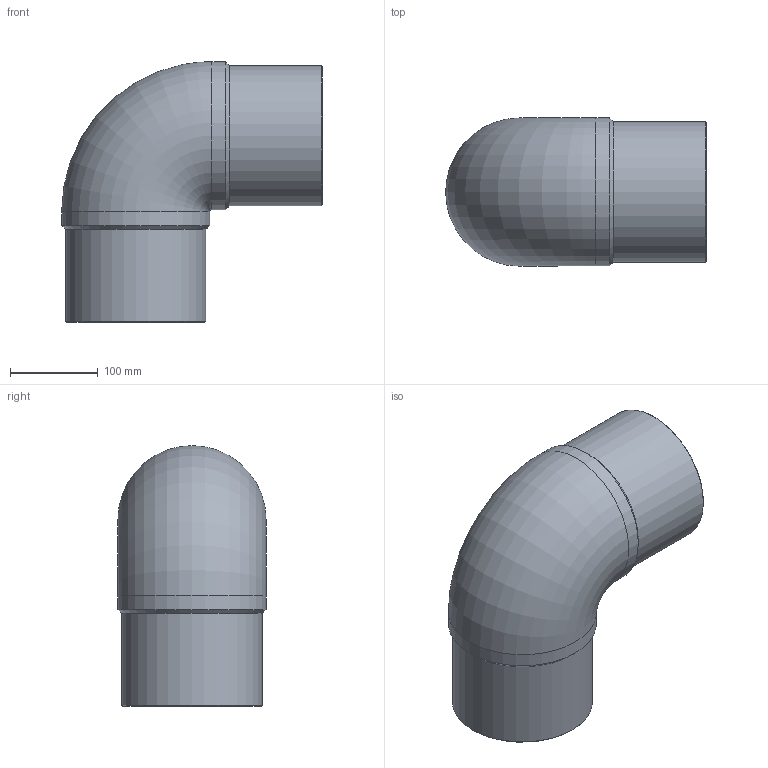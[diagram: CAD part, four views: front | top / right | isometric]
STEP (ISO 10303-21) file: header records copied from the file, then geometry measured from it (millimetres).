
FILE_DESCRIPTION(/* description */ ('Unknown'),/* implementation_level */ '2;1');
FILE_NAME(/* name */ 'G9P160G',/* time_stamp */ '2021-11-15T15:00:05+01:00',/* author */ ('Unknown'),/* organization */ ('Unknown'),/* preprocessor_version */ 'ST-DEVELOPER v16.7',/* originating_system */ 'Solid Edge',/* authorisation */ 'Unknown');
FILE_SCHEMA (('AUTOMOTIVE_DESIGN {1 0 10303 214 3 1 1}'));
Length unit declared in the file: millimetre
Products named in the file (1): G9P160G
Bounding box: 297.5 x 169 x 297.5 mm (x, y, z)
Volume: 3548723.2 mm3; surface area: 369907.3 mm2
Topology: 1 solids, 1 shells, 14 faces, 34 edges, 22 vertices
Faces by surface type: cylinder 6, cone 4, plane 2, torus 2
Full cylindrical faces by diameter (mm): 124.2 x2, 160 x2, 169 x2
Entity records: 374 total; most frequent: CARTESIAN_POINT 74, DIRECTION 60, ORIENTED_EDGE 38, AXIS2_PLACEMENT_3D 30, EDGE_LOOP 27, FACE_BOUND 27, EDGE_CURVE 19, VERTEX_POINT 18
